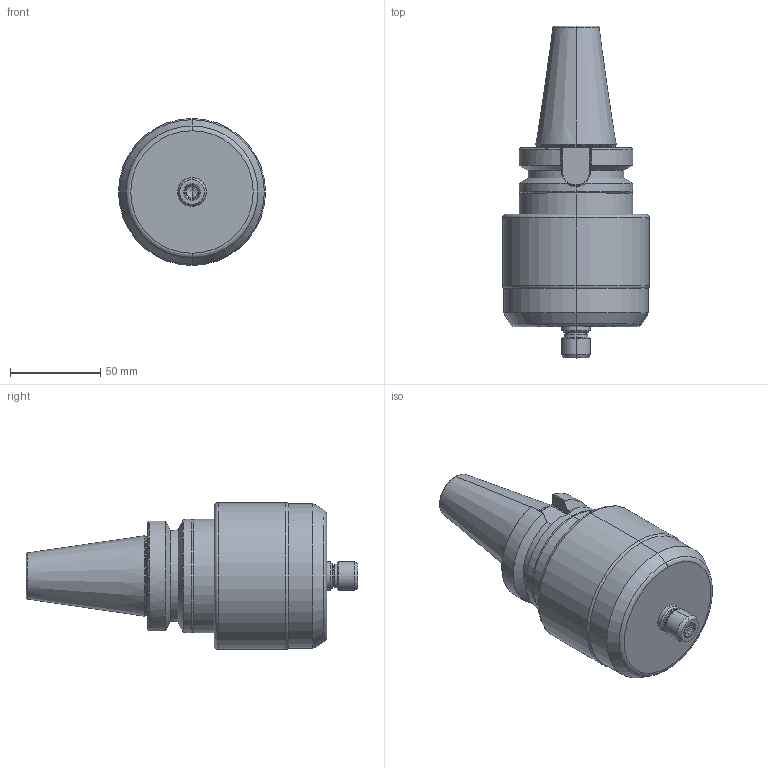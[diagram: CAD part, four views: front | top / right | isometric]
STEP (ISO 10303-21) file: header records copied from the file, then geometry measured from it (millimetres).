
FILE_DESCRIPTION (( 'STEP AP214' ), '1' );
FILE_NAME ('TJS-HPC-BT40-Light.STEP', '2017-06-14T12:50:12', ( '' ), ( '' ), 'SwSTEP 2.0', 'SolidWorks 2015', '' );
FILE_SCHEMA (( 'AUTOMOTIVE_DESIGN' ));
Length unit declared in the file: millimetre
Products named in the file (1): TJS-HPC-BT40-Light
Bounding box: 81.3 x 183.61 x 81.3 mm (x, y, z)
Volume: 477217.4 mm3; surface area: 44454.1 mm2
Topology: 1 solids, 1 shells, 135 faces, 320 edges, 195 vertices
Faces by surface type: cone 42, cylinder 40, plane 30, torus 19, bspline 4
Entity records: 5071 total; most frequent: CARTESIAN_POINT 1966, DIRECTION 659, ORIENTED_EDGE 632, EDGE_CURVE 316, AXIS2_PLACEMENT_3D 270, VERTEX_POINT 195, EDGE_LOOP 147, CIRCLE 138
